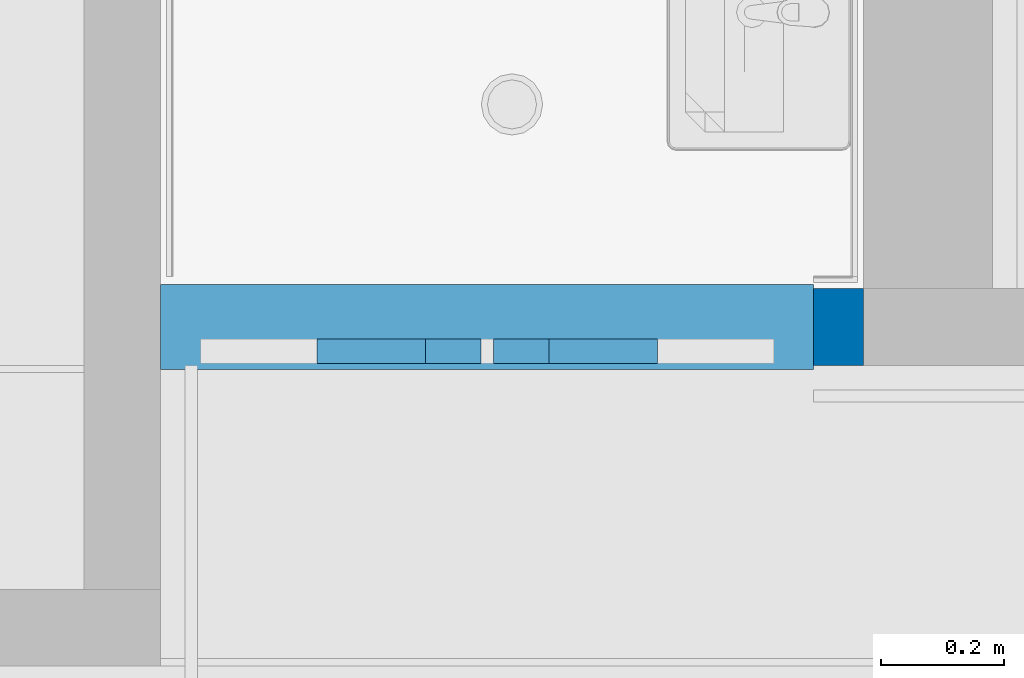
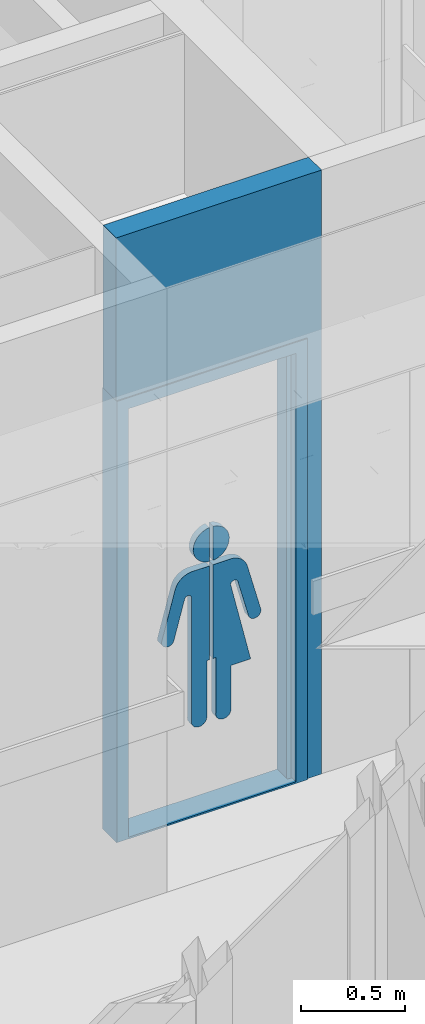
# One storey, part 7 of 347: 2 building element parts, 1 wall, 1 opening, 1 element without a shape of its own.
"""IFC2X3 building model written with IfcOpenShell, lengths in millimetres."""

from ifc_helpers import new_model, entity, si_unit, converted_unit, derived_unit, money_unit, direction, frame, origin_with_axes, place, context, subcontext, project, spatial, faceted_brep, source, transform, mapped, material, type_object, element, fill, aggregate, save


model = new_model("IFC2X3")

# Units and contexts
model_context = context("Model", 3, precision=0.01, world=origin_with_axes(), true_north=direction((0.0, 1.0)))
plan_context = context("Plan", 3, precision=0.01, world=origin_with_axes(), true_north=direction((0.0, 1.0)))
body_context = subcontext(model_context, "Body", "Model", "MODEL_VIEW")
ifc_project = project(units=[si_unit("LENGTHUNIT", "METRE", prefix="MILLI"), si_unit("AREAUNIT", "SQUARE_METRE"), si_unit("VOLUMEUNIT", "CUBIC_METRE"), converted_unit("PLANEANGLEUNIT", "DEGREE", entity("IfcPlaneAngleMeasure", 0.0174532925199), si_unit("PLANEANGLEUNIT", "RADIAN"), dimensions=[0, 0, 0, 0, 0, 0, 0]), money_unit("EUR"), converted_unit("TIMEUNIT", "Year", entity("IfcTimeMeasure", 31556926.0), si_unit("TIMEUNIT", "SECOND"), dimensions=[0, 0, 1, 0, 0, 0, 0]), si_unit("MASSUNIT", "GRAM", prefix="KILO"), si_unit("THERMODYNAMICTEMPERATUREUNIT", "DEGREE_CELSIUS"), si_unit("LUMINOUSINTENSITYUNIT", "LUMEN"), si_unit("ENERGYUNIT", "JOULE", prefix="MEGA"), derived_unit("THERMALCONDUCTANCEUNIT", [(si_unit("POWERUNIT", "WATT"), 1), (si_unit("LENGTHUNIT", "METRE"), -1), (si_unit("THERMODYNAMICTEMPERATUREUNIT", "KELVIN"), -1)]), derived_unit("SPECIFICHEATCAPACITYUNIT", [(si_unit("ENERGYUNIT", "JOULE"), 1), (si_unit("MASSUNIT", "GRAM", prefix="KILO"), -1), (si_unit("THERMODYNAMICTEMPERATUREUNIT", "KELVIN"), -1)]), derived_unit("MASSDENSITYUNIT", [(si_unit("MASSUNIT", "GRAM", prefix="KILO"), 1), (si_unit("VOLUMEUNIT", "CUBIC_METRE"), -1)])], contexts=[model_context, plan_context])

# Site, building, storey
site_placement = place(None, origin_with_axes())
site = spatial("IfcSite", under=ifc_project, at=site_placement, Name="Site", CompositionType="ELEMENT")
building_placement = place(site_placement, origin_with_axes())
building = spatial("IfcBuilding", under=site, at=building_placement, Name="Naam gebouw", CompositionType="ELEMENT")
storey_placement = place(building_placement, origin_with_axes())
storey = spatial("IfcBuildingStorey", under=building, at=storey_placement, Name="begane grond", CompositionType="ELEMENT", Elevation=0.0)

# Wall, opening, door, building element parts
ifc_material_1 = material(Name="ALG - LICHTE SCHEIDINGSWAND")
wall_type = type_object("IfcWallType", Name="ALG LSW 125 125", PredefinedType="NOTDEFINED")
wall_placement = place(storey_placement, frame((15795.0, 14890.0, 0.0), z_axis=(0.0, 0.0, 1.0), x_axis=(-1.0, 0.0, 0.0)))
wall = element("IfcWall", 1, at=wall_placement, inside=storey, type_object=wall_type, material=ifc_material_1, Name="22_GF 125 ECO DGS/2.75.3A", context=body_context, shape_type="Brep", body=[
    faceted_brep([(80.9999999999, -125.0, 2600.0), (1145.0, -125.0, 2600.0), (1145.0, -125.0, 3560.0), (0.0, -125.0, 3560.0), (0.0, -125.0, 0.0), (80.9999999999, -125.0, 0.0), (80.9999999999, 0.0, 2600.0), (1145.0, 0.0, 2600.0), (1145.0, 0.0, 3560.0), (0.0, 0.0, 3560.0), (0.0, 0.0, 0.0), (80.9999999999, 0.0, 0.0)], [[[0, 1, 2, 3, 4, 5]], [[1, 0, 6, 7]], [[1, 7, 8, 2]], [[2, 8, 9, 3]], [[3, 9, 10, 4]], [[11, 5, 4, 10]], [[0, 5, 11, 6]], [[6, 11, 10, 9, 8, 7]]]),
])
opening_placement = place(wall_placement, frame((613.0, 0.0, 0.0), z_axis=(0.0, 0.0, 1.0), x_axis=(1.0, 0.0, 0.0)))
opening = element("IfcOpeningElement", 2, at=opening_placement, cuts=wall, Name="32_02.05", context=body_context, shape_type="Brep", body=[
    faceted_brep([(532.0, -125.0, 2600.0), (532.0, -125.0, 0.0), (532.0, 257.0, 0.0), (532.0, 257.0, 2600.0), (-532.0, -125.0, 2600.0), (-532.0, -125.0, 0.0), (-532.0, 257.0, 0.0), (-532.0, 257.0, 2600.0)], [[[0, 1, 2, 3]], [[0, 4, 5, 1]], [[1, 5, 6, 2]], [[3, 2, 6, 7]], [[4, 0, 3, 7]], [[5, 4, 7, 6]]]),
])
door_style = type_object("IfcDoorStyle", Name="D1 25", ConstructionType="NOTDEFINED", OperationType="SINGLE_SWING_RIGHT", ParameterTakesPrecedence=False, Sizeable=False)
door_placement = place(opening_placement, frame((-532.0, 0.0, 0.0), z_axis=(0.0, 0.0, 1.0), x_axis=(1.0, 0.0, 0.0)))
door = element("IfcDoor", 3, at=door_placement, inside=storey, type_object=door_style, Name="32_02.05", ObjectType="DOOR", OverallHeight=2600.0, OverallWidth=1064.0)
fill(opening, door)
shared_shape_1 = source(origin_with_axes(), body_context, "Body", "Brep", [
    faceted_brep([(-467.0, -40.0, 10.0), (-442.0, -40.0, 10.0), (-442.0, -139.0, 10.0), (442.0, -139.0, 10.0), (442.0, -40.0, 10.0), (467.0, -40.0, 10.0), (467.0, 0.0, 10.0), (-467.0, 0.0, 10.0), (-467.0, -40.0, 0.0), (-442.0, -40.0, 0.0), (-442.0, -139.0, 0.0), (442.0, -139.0, 0.0), (442.0, -40.0, 0.0), (467.0, -40.0, 0.0), (467.0, 0.0, 0.0), (-467.0, 0.0, 0.0)], [[[0, 1, 2, 3, 4, 5, 6, 7]], [[1, 0, 8, 9]], [[10, 2, 1, 9]], [[2, 10, 11, 3]], [[3, 11, 12, 4]], [[5, 4, 12, 13]], [[13, 14, 6, 5]], [[15, 7, 6, 14]], [[8, 0, 7, 15]], [[9, 8, 15, 14, 13, 12, 11, 10]]]),
    faceted_brep([(-442.0, -50.0, 0.0), (-442.0, -50.0, 2510.0), (-442.0, -139.0, 2510.0), (-442.0, -139.0, 0.0), (-467.0, -50.0, 2510.0), (-467.0, -50.0, 0.0), (-467.0, 0.0, 2510.0), (-532.0, 0.0, 2510.0), (-532.0, -139.0, 2510.0), (-532.0, -139.0, 0.0), (-532.0, 0.0, 0.0), (-467.0, 0.0, 0.0)], [[[0, 1, 2, 3]], [[4, 1, 0, 5]], [[4, 6, 7, 8, 2, 1]], [[3, 2, 8, 9]], [[5, 0, 3, 9, 10, 11]], [[6, 4, 5, 11]], [[6, 11, 10, 7]], [[10, 9, 8, 7]]]),
    faceted_brep([(467.0, -50.0, 2510.0), (442.0, -50.0, 2510.0), (442.0, -139.0, 2510.0), (532.0, -139.0, 2510.0), (532.0, 0.0, 2510.0), (467.0, 0.0, 2510.0), (467.0, -50.0, 0.0), (442.0, -50.0, 0.0), (442.0, -139.0, 0.0), (532.0, -139.0, 0.0), (532.0, 0.0, 0.0), (467.0, 0.0, 0.0)], [[[0, 1, 2, 3, 4, 5]], [[1, 0, 6, 7]], [[1, 7, 8, 2]], [[3, 2, 8, 9]], [[4, 3, 9, 10]], [[11, 5, 4, 10]], [[0, 5, 11, 6]], [[6, 11, 10, 9, 8, 7]]]),
    faceted_brep([(-467.0, 0.0, 2535.0), (-467.0, 0.0, 2510.0), (-532.0, 0.0, 2510.0), (-532.0, 0.0, 2600.0), (532.0, 0.0, 2600.0), (532.0, 0.0, 2510.0), (467.0, 0.0, 2510.0), (467.0, 0.0, 2535.0), (-467.0, -50.0, 2535.0), (-467.0, -50.0, 2510.0), (-442.0, -50.0, 2510.0), (-442.0, -139.0, 2510.0), (-532.0, -139.0, 2510.0), (-532.0, -139.0, 2600.0), (532.0, -139.0, 2600.0), (532.0, -139.0, 2510.0), (467.0, -50.0, 2510.0), (442.0, -139.0, 2510.0), (442.0, -50.0, 2510.0), (467.0, -50.0, 2535.0)], [[[0, 1, 2, 3, 4, 5, 6, 7]], [[1, 0, 8, 9]], [[9, 10, 11, 12, 2, 1]], [[2, 12, 13, 3]], [[3, 13, 14, 4]], [[4, 14, 15, 5]], [[16, 6, 5, 15, 17, 18]], [[7, 6, 16, 19]], [[0, 7, 19, 8]], [[16, 18, 10, 9, 8, 19]], [[10, 18, 17, 11]], [[17, 15, 14, 13, 12, 11]]]),
])
building_element_part_1_placement = place(door_placement, origin_with_axes())
building_element_part_1 = element("IfcBuildingElementPart", 4, at=building_element_part_1_placement, context=body_context, shape_type="MappedRepresentation", body=[
    mapped(shared_shape_1, transform((532.0, 7.0, 0.0))),
])
ifc_material_2 = material(Name="Glas sticker")
shared_shape_2 = source(origin_with_axes(), body_context, "Body", "Brep", [
    faceted_brep([(201.58891637, -10.0, 1368.954906), (201.58891637, -50.0, 1368.954906), (276.62552127, -50.0, 1088.44895872), (276.62552127, -10.0, 1088.44895872), (195.949154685, -10.0, 1385.59511164), (195.949154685, -50.0, 1385.59511164), (187.162658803, -50.0, 1400.83915132), (175.866957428, -50.0, 1414.32329606), (162.405264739, -50.0, 1425.63783693), (147.186607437, -50.0, 1434.43898735), (130.673396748, -50.0, 1440.4593288), (113.367378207, -50.0, 1443.51593625), (104.580882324, -50.0, 1443.51593625), (10.0430200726, -50.0, 1443.51593625), (10.0430200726, -50.0, 890.229090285), (25.1075218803, -50.0, 890.229090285), (25.1075218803, -50.0, 563.286854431), (24.6932816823, -50.0, 557.54197595), (25.5217620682, -50.0, 550.06099695), (27.6345513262, -50.0, 542.8377749), (30.9674534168, -50.0, 536.091783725), (35.4191998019, -50.0, 530.027996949), (40.8545264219, -50.0, 524.830659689), (47.1082836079, -50.0, 520.657690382), (53.9904541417, -50.0, 517.635882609), (61.2919267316, -50.0, 515.857052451), (68.790849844, -50.0, 515.375248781), (76.2593724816, -50.0, 516.205110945), (83.4705673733, -50.0, 518.321424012), (90.2053260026, -50.0, 521.659884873), (96.2590161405, -50.0, 526.119056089), (101.447699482, -50.0, 531.563447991), (105.613720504, -50.0, 537.827635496), (108.630496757, -50.0, 544.721284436), (110.406365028, -50.0, 552.034934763), (110.887366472, -50.0, 559.546364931), (110.473126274, -50.0, 563.286854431), (110.473126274, -50.0, 1292.61952191), (110.695072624, -50.0, 1294.3081838), (111.717711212, -50.0, 1297.5569887), (113.288023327, -50.0, 1300.57856146), (115.358295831, -50.0, 1303.2810931), (117.865624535, -50.0, 1305.58246859), (120.733825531, -50.0, 1307.41276178), (123.875749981, -50.0, 1308.71636013), (127.195932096, -50.0, 1309.45365449), (130.593489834, -50.0, 1309.60224253), (133.965190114, -50.0, 1309.15760948), (137.208585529, -50.0, 1308.13326528), (140.225127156, -50.0, 1306.56033414), (142.923158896, -50.0, 1304.48660874), (145.220702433, -50.0, 1301.97509819), (147.047948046, -50.0, 1299.10211348), (148.349375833, -50.0, 1295.95494878), (149.011836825, -50.0, 1292.61952191), (207.923578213, -50.0, 1073.19870026), (208.722214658, -50.0, 1070.21469297), (211.322258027, -50.0, 1064.63143877), (214.850708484, -50.0, 1059.58525256), (219.200355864, -50.0, 1055.22946015), (224.239038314, -50.0, 1051.6964101), (229.813658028, -50.0, 1049.09345233), (235.754833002, -50.0, 1047.49967641), (241.882043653, -50.0, 1046.96350842), (248.009117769, -50.0, 1047.50123953), (253.949887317, -50.0, 1049.09653107), (259.523845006, -50.0, 1051.70091091), (264.561628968, -50.0, 1055.23524628), (268.910168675, -50.0, 1059.59214821), (272.437335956, -50.0, 1064.63923441), (275.035959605, -50.0, 1070.22315174), (276.627081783, -50.0, 1076.17423568), (277.162357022, -50.0, 1082.31166558), (277.162357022, -10.0, 1082.31166558), (276.627081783, -10.0, 1076.17423568), (275.035959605, -10.0, 1070.22315174), (272.437335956, -10.0, 1064.63923441), (268.910168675, -10.0, 1059.59214821), (264.561628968, -10.0, 1055.23524628), (259.523845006, -10.0, 1051.70091091), (253.949887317, -10.0, 1049.09653107), (248.009117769, -10.0, 1047.50123953), (241.882043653, -10.0, 1046.96350842), (235.754833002, -10.0, 1047.49967641), (229.813658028, -10.0, 1049.09345233), (224.239038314, -10.0, 1051.6964101), (219.200355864, -10.0, 1055.22946015), (214.850708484, -10.0, 1059.58525256), (211.322258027, -10.0, 1064.63143877), (208.722214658, -10.0, 1070.21469297), (207.923578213, -10.0, 1073.19870026), (149.011836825, -10.0, 1292.61952191), (148.349375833, -10.0, 1295.95494878), (147.047948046, -10.0, 1299.10211348), (145.220702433, -10.0, 1301.97509819), (142.923158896, -10.0, 1304.48660874), (140.225127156, -10.0, 1306.56033414), (137.208585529, -10.0, 1308.13326528), (133.965190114, -10.0, 1309.15760948), (130.593489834, -10.0, 1309.60224253), (127.195932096, -10.0, 1309.45365449), (123.875749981, -10.0, 1308.71636013), (120.733825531, -10.0, 1307.41276178), (117.865624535, -10.0, 1305.58246859), (115.358295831, -10.0, 1303.2810931), (113.288023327, -10.0, 1300.57856146), (111.717711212, -10.0, 1297.5569887), (110.695072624, -10.0, 1294.3081838), (110.473126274, -10.0, 1292.61952191), (110.473126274, -10.0, 563.286854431), (110.887366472, -10.0, 559.546364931), (110.406365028, -10.0, 552.034934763), (108.630496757, -10.0, 544.721284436), (105.613720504, -10.0, 537.827635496), (101.447699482, -10.0, 531.563447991), (96.2590161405, -10.0, 526.119056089), (90.2053260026, -10.0, 521.659884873), (83.4705673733, -10.0, 518.321424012), (76.2593724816, -10.0, 516.205110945), (68.790849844, -10.0, 515.375248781), (61.2919267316, -10.0, 515.857052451), (53.9904541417, -10.0, 517.635882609), (47.1082836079, -10.0, 520.657690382), (40.8545264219, -10.0, 524.830659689), (35.4191998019, -10.0, 530.027996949), (30.9674534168, -10.0, 536.091783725), (27.6345513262, -10.0, 542.8377749), (25.5217620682, -10.0, 550.06099695), (24.6932816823, -10.0, 557.54197595), (25.1075218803, -10.0, 563.286854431), (25.1075218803, -10.0, 890.229090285), (10.0430200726, -10.0, 890.229090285), (10.0430200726, -10.0, 1443.51593625), (104.580882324, -10.0, 1443.51593625), (113.367378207, -10.0, 1443.51593625), (130.673396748, -10.0, 1440.4593288), (147.186607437, -10.0, 1434.43898735), (162.405264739, -10.0, 1425.63783693), (175.866957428, -10.0, 1414.32329606), (187.162658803, -10.0, 1400.83915132)], [[[0, 1, 2, 3]], [[4, 5, 1, 0]], [[1, 5, 6, 7, 8, 9, 10, 11, 12, 13, 14, 15, 16, 17, 18, 19, 20, 21, 22, 23, 24, 25, 26, 27, 28, 29, 30, 31, 32, 33, 34, 35, 36, 37, 38, 39, 40, 41, 42, 43, 44, 45, 46, 47, 48, 49, 50, 51, 52, 53, 54, 55, 56, 57, 58, 59, 60, 61, 62, 63, 64, 65, 66, 67, 68, 69, 70, 71, 72, 2]], [[3, 2, 72, 73]], [[0, 3, 73, 74, 75, 76, 77, 78, 79, 80, 81, 82, 83, 84, 85, 86, 87, 88, 89, 90, 91, 92, 93, 94, 95, 96, 97, 98, 99, 100, 101, 102, 103, 104, 105, 106, 107, 108, 109, 110, 111, 112, 113, 114, 115, 116, 117, 118, 119, 120, 121, 122, 123, 124, 125, 126, 127, 128, 129, 130, 131, 132, 133, 134, 135, 136, 137, 138, 139, 4]], [[139, 6, 5, 4]], [[138, 7, 6, 139]], [[137, 8, 7, 138]], [[136, 9, 8, 137]], [[135, 10, 9, 136]], [[134, 11, 10, 135]], [[133, 12, 11, 134]], [[132, 13, 12, 133]], [[131, 14, 13, 132]], [[130, 15, 14, 131]], [[129, 16, 15, 130]], [[128, 17, 16, 129]], [[127, 18, 17, 128]], [[126, 19, 18, 127]], [[125, 20, 19, 126]], [[124, 21, 20, 125]], [[123, 22, 21, 124]], [[122, 23, 22, 123]], [[121, 24, 23, 122]], [[120, 25, 24, 121]], [[119, 26, 25, 120]], [[118, 27, 26, 119]], [[117, 28, 27, 118]], [[116, 29, 28, 117]], [[115, 30, 29, 116]], [[114, 31, 30, 115]], [[113, 32, 31, 114]], [[112, 33, 32, 113]], [[111, 34, 33, 112]], [[110, 35, 34, 111]], [[109, 36, 35, 110]], [[108, 37, 36, 109]], [[107, 38, 37, 108]], [[106, 39, 38, 107]], [[105, 40, 39, 106]], [[104, 41, 40, 105]], [[103, 42, 41, 104]], [[102, 43, 42, 103]], [[101, 44, 43, 102]], [[100, 45, 44, 101]], [[99, 46, 45, 100]], [[98, 47, 46, 99]], [[97, 48, 47, 98]], [[96, 49, 48, 97]], [[95, 50, 49, 96]], [[94, 51, 50, 95]], [[93, 52, 51, 94]], [[92, 53, 52, 93]], [[91, 54, 53, 92]], [[90, 55, 54, 91]], [[89, 56, 55, 90]], [[88, 57, 56, 89]], [[87, 58, 57, 88]], [[86, 59, 58, 87]], [[85, 60, 59, 86]], [[84, 61, 60, 85]], [[83, 62, 61, 84]], [[82, 63, 62, 83]], [[81, 64, 63, 82]], [[80, 65, 64, 81]], [[79, 66, 65, 80]], [[78, 67, 66, 79]], [[77, 68, 67, 78]], [[76, 69, 68, 77]], [[75, 70, 69, 76]], [[74, 71, 70, 75]], [[73, 72, 71, 74]]]),
    faceted_brep([(-10.0430200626, -10.0, 890.229090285), (-10.0430200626, -50.0, 890.229090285), (-25.1075218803, -50.0, 890.229090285), (-25.1075218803, -10.0, 890.229090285), (-10.0430200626, -10.0, 1443.51593625), (-10.0430200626, -50.0, 1443.51593625), (-104.580882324, -50.0, 1443.51593625), (-122.087001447, -50.0, 1442.36606156), (-139.061208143, -50.0, 1437.81025123), (-154.98774758, -50.0, 1430.37119778), (-169.382699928, -50.0, 1420.27493311), (-181.808681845, -50.0, 1407.82822709), (-191.888136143, -50.0, 1393.40926659), (-199.31480372, -50.0, 1377.45616444), (-201.58891637, -50.0, 1368.954906), (-275.831520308, -50.0, 1091.41563724), (-276.62708117, -50.0, 1088.44009521), (-277.162355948, -50.0, 1082.30266527), (-276.625519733, -50.0, 1076.16537218), (-275.032884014, -50.0, 1070.21469446), (-272.432840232, -50.0, 1064.63144045), (-268.904389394, -50.0, 1059.58525451), (-264.554741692, -50.0, 1055.22946244), (-259.516058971, -50.0, 1051.69641276), (-253.941439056, -50.0, 1049.09345542), (-248.000263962, -50.0, 1047.49967995), (-241.873053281, -50.0, 1046.96351241), (-235.745979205, -50.0, 1047.50124399), (-229.805209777, -50.0, 1049.09653598), (-224.231252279, -50.0, 1051.70091623), (-219.193468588, -50.0, 1055.235252), (-214.844929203, -50.0, 1059.59215425), (-211.317762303, -50.0, 1064.63924071), (-208.719139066, -50.0, 1070.22315824), (-207.923578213, -50.0, 1073.19870027), (-149.227842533, -50.0, 1292.61952191), (-149.003554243, -50.0, 1294.42542469), (-147.935653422, -50.0, 1297.90433437), (-146.280875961, -50.0, 1301.14464328), (-144.089501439, -50.0, 1304.04789628), (-141.428113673, -50.0, 1306.52587948), (-138.377577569, -50.0, 1308.50330061), (-135.030582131, -50.0, 1309.92007677), (-131.488824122, -50.0, 1310.73315989), (-127.859918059, -50.0, 1310.91784487), (-124.254126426, -50.0, 1310.46852015), (-120.781009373, -50.0, 1309.39883823), (-117.546095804, -50.0, 1307.74130085), (-114.647676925, -50.0, 1305.54627145), (-112.173819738, -50.0, 1302.8804449), (-110.199691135, -50.0, 1299.82482097), (-108.785274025, -50.0, 1296.47224326), (-108.013455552, -50.0, 1292.61952191), (-219.866038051, -50.0, 814.780876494), (-110.473126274, -50.0, 814.780876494), (-110.473126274, -50.0, 563.286854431), (-110.887366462, -50.0, 557.54197595), (-110.058886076, -50.0, 550.06099695), (-107.946096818, -50.0, 542.8377749), (-104.613194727, -50.0, 536.091783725), (-100.161448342, -50.0, 530.027996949), (-94.7261217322, -50.0, 524.830659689), (-88.4723645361, -50.0, 520.657690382), (-81.5901940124, -50.0, 517.635882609), (-74.2887214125, -50.0, 515.857052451), (-66.7897983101, -50.0, 515.375248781), (-59.3212756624, -50.0, 516.205110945), (-52.1100807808, -50.0, 518.321424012), (-45.3753221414, -50.0, 521.659884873), (-39.3216320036, -50.0, 526.119056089), (-34.1329486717, -50.0, 531.563447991), (-29.9669276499, -50.0, 537.827635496), (-26.9501513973, -50.0, 544.721284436), (-25.1742831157, -50.0, 552.034934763), (-24.6932816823, -50.0, 559.546364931), (-25.1075218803, -50.0, 563.286854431), (-25.1075218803, -10.0, 563.286854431), (-24.6932816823, -10.0, 559.546364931), (-25.1742831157, -10.0, 552.034934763), (-26.9501513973, -10.0, 544.721284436), (-29.9669276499, -10.0, 537.827635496), (-34.1329486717, -10.0, 531.563447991), (-39.3216320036, -10.0, 526.119056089), (-45.3753221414, -10.0, 521.659884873), (-52.1100807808, -10.0, 518.321424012), (-59.3212756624, -10.0, 516.205110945), (-66.7897983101, -10.0, 515.375248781), (-74.2887214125, -10.0, 515.857052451), (-81.5901940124, -10.0, 517.635882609), (-88.4723645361, -10.0, 520.657690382), (-94.7261217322, -10.0, 524.830659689), (-100.161448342, -10.0, 530.027996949), (-104.613194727, -10.0, 536.091783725), (-107.946096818, -10.0, 542.8377749), (-110.058886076, -10.0, 550.06099695), (-110.887366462, -10.0, 557.54197595), (-110.473126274, -10.0, 563.286854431), (-110.473126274, -10.0, 814.780876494), (-219.866038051, -10.0, 814.780876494), (-108.013455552, -10.0, 1292.61952191), (-108.785274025, -10.0, 1296.47224326), (-110.199691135, -10.0, 1299.82482097), (-112.173819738, -10.0, 1302.8804449), (-114.647676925, -10.0, 1305.54627145), (-117.546095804, -10.0, 1307.74130085), (-120.781009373, -10.0, 1309.39883823), (-124.254126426, -10.0, 1310.46852015), (-127.859918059, -10.0, 1310.91784487), (-131.488824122, -10.0, 1310.73315989), (-135.030582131, -10.0, 1309.92007677), (-138.377577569, -10.0, 1308.50330061), (-141.428113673, -10.0, 1306.52587948), (-144.089501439, -10.0, 1304.04789628), (-146.280875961, -10.0, 1301.14464328), (-147.935653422, -10.0, 1297.90433437), (-149.003554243, -10.0, 1294.42542469), (-149.227842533, -10.0, 1292.61952191), (-207.923578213, -10.0, 1073.19870027), (-208.719139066, -10.0, 1070.22315824), (-211.317762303, -10.0, 1064.63924071), (-214.844929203, -10.0, 1059.59215425), (-219.193468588, -10.0, 1055.235252), (-224.231252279, -10.0, 1051.70091623), (-229.805209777, -10.0, 1049.09653598), (-235.745979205, -10.0, 1047.50124399), (-241.873053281, -10.0, 1046.96351241), (-248.000263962, -10.0, 1047.49967995), (-253.941439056, -10.0, 1049.09345542), (-259.516058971, -10.0, 1051.69641276), (-264.554741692, -10.0, 1055.22946244), (-268.904389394, -10.0, 1059.58525451), (-272.432840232, -10.0, 1064.63144045), (-275.032884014, -10.0, 1070.21469446), (-276.625519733, -10.0, 1076.16537218), (-277.162355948, -10.0, 1082.30266527), (-276.62708117, -10.0, 1088.44009521), (-275.831520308, -10.0, 1091.41563724), (-201.58891637, -10.0, 1368.954906), (-199.31480372, -10.0, 1377.45616444), (-191.888136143, -10.0, 1393.40926659), (-181.808681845, -10.0, 1407.82822709), (-169.382699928, -10.0, 1420.27493311), (-154.98774758, -10.0, 1430.37119778), (-139.061208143, -10.0, 1437.81025123), (-122.087001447, -10.0, 1442.36606156), (-104.580882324, -10.0, 1443.51593625)], [[[0, 1, 2, 3]], [[4, 5, 1, 0]], [[1, 5, 6, 7, 8, 9, 10, 11, 12, 13, 14, 15, 16, 17, 18, 19, 20, 21, 22, 23, 24, 25, 26, 27, 28, 29, 30, 31, 32, 33, 34, 35, 36, 37, 38, 39, 40, 41, 42, 43, 44, 45, 46, 47, 48, 49, 50, 51, 52, 53, 54, 55, 56, 57, 58, 59, 60, 61, 62, 63, 64, 65, 66, 67, 68, 69, 70, 71, 72, 73, 74, 75, 2]], [[3, 2, 75, 76]], [[0, 3, 76, 77, 78, 79, 80, 81, 82, 83, 84, 85, 86, 87, 88, 89, 90, 91, 92, 93, 94, 95, 96, 97, 98, 99, 100, 101, 102, 103, 104, 105, 106, 107, 108, 109, 110, 111, 112, 113, 114, 115, 116, 117, 118, 119, 120, 121, 122, 123, 124, 125, 126, 127, 128, 129, 130, 131, 132, 133, 134, 135, 136, 137, 138, 139, 140, 141, 142, 143, 144, 145, 4]], [[145, 6, 5, 4]], [[144, 7, 6, 145]], [[143, 8, 7, 144]], [[142, 9, 8, 143]], [[141, 10, 9, 142]], [[140, 11, 10, 141]], [[139, 12, 11, 140]], [[138, 13, 12, 139]], [[137, 14, 13, 138]], [[136, 15, 14, 137]], [[135, 16, 15, 136]], [[134, 17, 16, 135]], [[133, 18, 17, 134]], [[132, 19, 18, 133]], [[131, 20, 19, 132]], [[130, 21, 20, 131]], [[129, 22, 21, 130]], [[128, 23, 22, 129]], [[127, 24, 23, 128]], [[126, 25, 24, 127]], [[125, 26, 25, 126]], [[124, 27, 26, 125]], [[123, 28, 27, 124]], [[122, 29, 28, 123]], [[121, 30, 29, 122]], [[120, 31, 30, 121]], [[119, 32, 31, 120]], [[118, 33, 32, 119]], [[117, 34, 33, 118]], [[116, 35, 34, 117]], [[115, 36, 35, 116]], [[114, 37, 36, 115]], [[113, 38, 37, 114]], [[112, 39, 38, 113]], [[111, 40, 39, 112]], [[110, 41, 40, 111]], [[109, 42, 41, 110]], [[108, 43, 42, 109]], [[107, 44, 43, 108]], [[106, 45, 44, 107]], [[105, 46, 45, 106]], [[104, 47, 46, 105]], [[103, 48, 47, 104]], [[102, 49, 48, 103]], [[101, 50, 49, 102]], [[100, 51, 50, 101]], [[99, 52, 51, 100]], [[98, 53, 52, 99]], [[97, 54, 53, 98]], [[96, 55, 54, 97]], [[95, 56, 55, 96]], [[94, 57, 56, 95]], [[93, 58, 57, 94]], [[92, 59, 58, 93]], [[91, 60, 59, 92]], [[90, 61, 60, 91]], [[89, 62, 61, 90]], [[88, 63, 62, 89]], [[87, 64, 63, 88]], [[86, 65, 64, 87]], [[85, 66, 65, 86]], [[84, 67, 66, 85]], [[83, 68, 67, 84]], [[82, 69, 68, 83]], [[81, 70, 69, 82]], [[80, 71, 70, 81]], [[79, 72, 71, 80]], [[78, 73, 72, 79]], [[77, 74, 73, 78]], [[76, 75, 74, 77]]]),
    faceted_brep([(-10.0430200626, -10.0, 1669.35630499), (-10.0430200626, -50.0, 1669.35630499), (-10.0430200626, -50.0, 1469.16959144), (-10.0430200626, -10.0, 1469.16959144), (-26.0925144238, -10.0, 1666.80395031), (-26.0925144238, -50.0, 1666.80395031), (-42.6057251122, -50.0, 1660.78360886), (-57.8243824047, -50.0, 1651.98245845), (-71.2860751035, -50.0, 1640.66791757), (-82.5817764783, -50.0, 1627.18377283), (-91.368272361, -50.0, 1611.93973315), (-97.3785895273, -50.0, 1595.39898096), (-100.430107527, -50.0, 1578.06409863), (-100.430107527, -50.0, 1569.26294821), (-99.4997261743, -50.0, 1553.01203348), (-95.1708587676, -50.0, 1535.9521583), (-87.9502729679, -50.0, 1519.90441461), (-78.0573626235, -50.0, 1505.35640498), (-65.7927188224, -50.0, 1492.75016333), (-51.5289965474, -50.0, 1482.46872393), (-35.6995917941, -50.0, 1474.82448312), (-18.7854730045, -50.0, 1470.04970729), (-18.7854730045, -10.0, 1470.04970729), (-35.6995917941, -10.0, 1474.82448312), (-51.5289965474, -10.0, 1482.46872393), (-65.7927188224, -10.0, 1492.75016333), (-78.0573626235, -10.0, 1505.35640498), (-87.9502729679, -10.0, 1519.90441461), (-95.1708587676, -10.0, 1535.9521583), (-99.4997261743, -10.0, 1553.01203348), (-100.430107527, -10.0, 1569.26294821), (-100.430107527, -10.0, 1578.06409863), (-97.3785895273, -10.0, 1595.39898096), (-91.368272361, -10.0, 1611.93973315), (-82.5817764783, -10.0, 1627.18377283), (-71.2860751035, -10.0, 1640.66791757), (-57.8243824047, -10.0, 1651.98245845), (-42.6057251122, -10.0, 1660.78360886)], [[[0, 1, 2, 3]], [[4, 5, 1, 0]], [[1, 5, 6, 7, 8, 9, 10, 11, 12, 13, 14, 15, 16, 17, 18, 19, 20, 21, 2]], [[3, 2, 21, 22]], [[0, 3, 22, 23, 24, 25, 26, 27, 28, 29, 30, 31, 32, 33, 34, 35, 36, 37, 4]], [[37, 6, 5, 4]], [[36, 7, 6, 37]], [[35, 8, 7, 36]], [[34, 9, 8, 35]], [[33, 10, 9, 34]], [[32, 11, 10, 33]], [[31, 12, 11, 32]], [[30, 13, 12, 31]], [[29, 14, 13, 30]], [[28, 15, 14, 29]], [[27, 16, 15, 28]], [[26, 17, 16, 27]], [[25, 18, 17, 26]], [[24, 19, 18, 25]], [[23, 20, 19, 24]], [[22, 21, 20, 23]]]),
    faceted_brep([(10.0430200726, -10.0, 1669.35630499), (10.0430200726, -50.0, 1669.35630499), (18.7854730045, -50.0, 1668.47618914), (18.7854730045, -10.0, 1668.47618914), (10.0430200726, -10.0, 1469.16959144), (10.0430200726, -50.0, 1469.16959144), (26.0925144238, -50.0, 1471.72194611), (42.6057251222, -50.0, 1477.74228756), (57.8243824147, -50.0, 1486.54343798), (71.2860751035, -50.0, 1497.85797885), (82.5817764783, -50.0, 1511.34212359), (91.368272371, -50.0, 1526.58616327), (97.3785895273, -50.0, 1543.12691547), (100.430107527, -50.0, 1560.4617978), (100.430107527, -50.0, 1569.26294821), (99.4997261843, -50.0, 1585.51386294), (95.1708587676, -50.0, 1602.57373813), (87.9502729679, -50.0, 1618.62148182), (78.0573626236, -50.0, 1633.16949145), (65.7927188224, -50.0, 1645.77573309), (51.5289965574, -50.0, 1656.05717249), (35.6995917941, -50.0, 1663.7014133), (35.6995917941, -10.0, 1663.7014133), (51.5289965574, -10.0, 1656.05717249), (65.7927188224, -10.0, 1645.77573309), (78.0573626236, -10.0, 1633.16949145), (87.9502729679, -10.0, 1618.62148182), (95.1708587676, -10.0, 1602.57373813), (99.4997261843, -10.0, 1585.51386294), (100.430107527, -10.0, 1569.26294821), (100.430107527, -10.0, 1560.4617978), (97.3785895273, -10.0, 1543.12691547), (91.368272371, -10.0, 1526.58616327), (82.5817764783, -10.0, 1511.34212359), (71.2860751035, -10.0, 1497.85797885), (57.8243824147, -10.0, 1486.54343798), (42.6057251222, -10.0, 1477.74228756), (26.0925144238, -10.0, 1471.72194611)], [[[0, 1, 2, 3]], [[4, 5, 1, 0]], [[1, 5, 6, 7, 8, 9, 10, 11, 12, 13, 14, 15, 16, 17, 18, 19, 20, 21, 2]], [[3, 2, 21, 22]], [[0, 3, 22, 23, 24, 25, 26, 27, 28, 29, 30, 31, 32, 33, 34, 35, 36, 37, 4]], [[37, 6, 5, 4]], [[36, 7, 6, 37]], [[35, 8, 7, 36]], [[34, 9, 8, 35]], [[33, 10, 9, 34]], [[32, 11, 10, 33]], [[31, 12, 11, 32]], [[30, 13, 12, 31]], [[29, 14, 13, 30]], [[28, 15, 14, 29]], [[27, 16, 15, 28]], [[26, 17, 16, 27]], [[25, 18, 17, 26]], [[24, 19, 18, 25]], [[23, 20, 19, 24]], [[22, 21, 20, 23]]]),
])
building_element_part_2_placement = place(door_placement, origin_with_axes())
building_element_part_2 = element("IfcBuildingElementPart", 5, at=building_element_part_2_placement, material=ifc_material_2, Name="Glas sticker", context=body_context, shape_type="MappedRepresentation", body=[
    mapped(shared_shape_2, transform((532.0, 7.0, 0.0))),
])
aggregate(door, [building_element_part_1, building_element_part_2])

save(model, "model.ifc")
